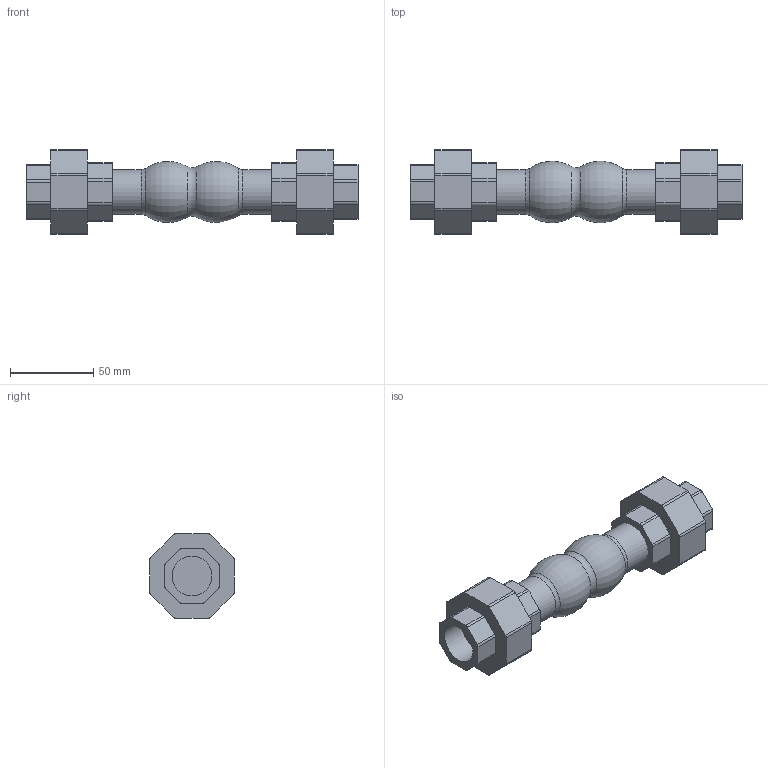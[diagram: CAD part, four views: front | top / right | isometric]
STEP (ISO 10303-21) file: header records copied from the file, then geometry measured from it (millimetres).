
FILE_DESCRIPTION(('STEP AP203'), '1');
FILE_NAME('3D_505-020-16', '', ('UNSPECIFIED'), ('UNSPECIFIED'), 'C3D Converter', 'C3D Toolkit', '');
FILE_SCHEMA(('CONFIG_CONTROL_DESIGN'));
Length unit declared in the file: millimetre
Bounding box: 200 x 51 x 51 mm (x, y, z)
Volume: 213140.6 mm3; surface area: 33603 mm2
Topology: 1 solids, 1 shells, 115 faces, 319 edges, 214 vertices
Faces by surface type: plane 58, cylinder 52, torus 5
Full cylindrical faces by diameter (mm): 24 x2, 27 x2
Entity records: 4633 total; most frequent: DIRECTION 660, CARTESIAN_POINT 640, ORIENTED_EDGE 620, EDGE_CURVE 310, AXIS2_PLACEMENT_3D 234, VERTEX_POINT 214, LINE 192, VECTOR 192
